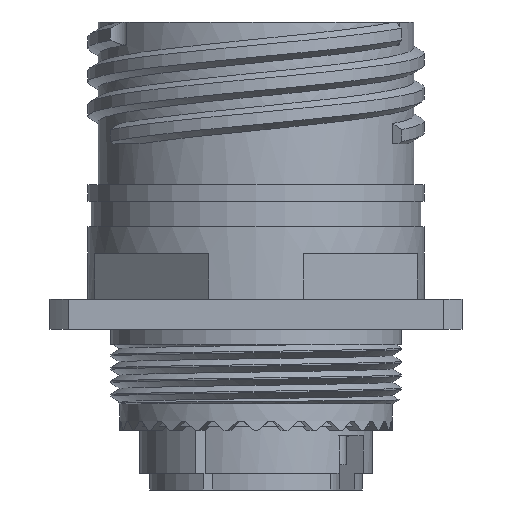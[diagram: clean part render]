
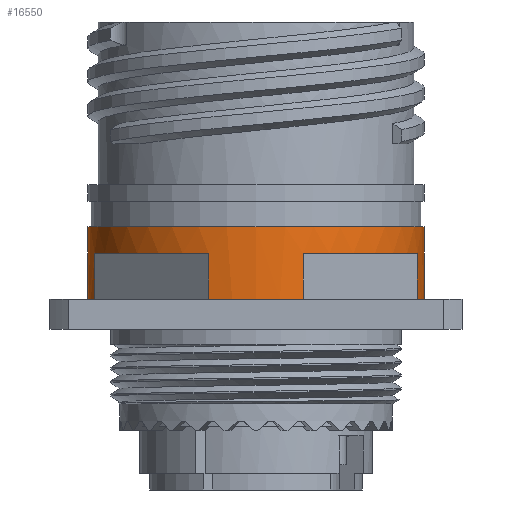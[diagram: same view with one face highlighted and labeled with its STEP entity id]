
A CAD part, front view. The second image highlights one B-rep face of the part: STEP entity #16550.
In plain terms, the highlighted cylindrical face has radius 12.636 mm (diameter 25.273 mm), a partial arc.
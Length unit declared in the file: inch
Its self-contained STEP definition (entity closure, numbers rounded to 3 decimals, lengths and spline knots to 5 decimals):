
#384 = CARTESIAN_POINT ( 'NONE',  ( 0.13987, -0.47743, -0.684 ) ) ;
#502 = DIRECTION ( 'NONE',  ( -1., 0., 0. ) ) ;
#875 = AXIS2_PLACEMENT_3D ( 'NONE', #18387, #9656, #22897 ) ;
#1294 = VERTEX_POINT ( 'NONE', #2163 ) ;
#1550 = LINE ( 'NONE', #8528, #22650 ) ;
#1630 = EDGE_CURVE ( 'NONE', #6919, #15328, #18090, .T. ) ;
#2014 = CARTESIAN_POINT ( 'NONE',  ( 0.47743, -0.13987, -0.684 ) ) ;
#2089 = CARTESIAN_POINT ( 'NONE',  ( 0.13987, -0.47743, 0. ) ) ;
#2105 = CARTESIAN_POINT ( 'NONE',  ( -0.4975, 0., -0.605 ) ) ;
#2163 = CARTESIAN_POINT ( 'NONE',  ( -0.47743, -0.13987, -0.684 ) ) ;
#2383 = VERTEX_POINT ( 'NONE', #23847 ) ;
#2657 = ORIENTED_EDGE ( 'NONE', *, *, #1630, .F. ) ;
#2753 = AXIS2_PLACEMENT_3D ( 'NONE', #18657, #21133, #3375 ) ;
#2845 = CARTESIAN_POINT ( 'NONE',  ( 0., 0., 0. ) ) ;
#2935 = DIRECTION ( 'NONE',  ( -1., 0., 0. ) ) ;
#2980 = CYLINDRICAL_SURFACE ( 'NONE', #3887, 0.4975 ) ;
#3375 = DIRECTION ( 'NONE',  ( -1., 0., 0. ) ) ;
#3743 = DIRECTION ( 'NONE',  ( 0., 0., 1. ) ) ;
#3887 = AXIS2_PLACEMENT_3D ( 'NONE', #2845, #11871, #7351 ) ;
#4202 = CARTESIAN_POINT ( 'NONE',  ( 0., 0., -0.82 ) ) ;
#4292 = DIRECTION ( 'NONE',  ( 0., 0., -1. ) ) ;
#4572 = ORIENTED_EDGE ( 'NONE', *, *, #15920, .F. ) ;
#4865 = CARTESIAN_POINT ( 'NONE',  ( -0.47743, -0.13987, 0. ) ) ;
#4965 = VECTOR ( 'NONE', #23752, 39.37008 ) ;
#4971 = LINE ( 'NONE', #8507, #6556 ) ;
#5150 = EDGE_CURVE ( 'NONE', #1294, #2383, #26988, .T. ) ;
#5248 = EDGE_CURVE ( 'NONE', #9604, #27211, #26169, .T. ) ;
#6556 = VECTOR ( 'NONE', #18222, 39.37008 ) ;
#6764 = EDGE_CURVE ( 'NONE', #23550, #11212, #26959, .T. ) ;
#6919 = VERTEX_POINT ( 'NONE', #17794 ) ;
#6998 = EDGE_CURVE ( 'NONE', #11212, #6919, #25520, .T. ) ;
#7341 = ORIENTED_EDGE ( 'NONE', *, *, #9335, .F. ) ;
#7351 = DIRECTION ( 'NONE',  ( 1., 0., 0. ) ) ;
#8507 = CARTESIAN_POINT ( 'NONE',  ( -0.4975, 0., 0. ) ) ;
#8522 = CIRCLE ( 'NONE', #19205, 0.4975 ) ;
#8528 = CARTESIAN_POINT ( 'NONE',  ( 0.47743, -0.13987, 0. ) ) ;
#8564 = CARTESIAN_POINT ( 'NONE',  ( -0.4975, 0., -0.82 ) ) ;
#8709 = DIRECTION ( 'NONE',  ( -1., 0., 0. ) ) ;
#9335 = EDGE_CURVE ( 'NONE', #2383, #15875, #23643, .T. ) ;
#9604 = VERTEX_POINT ( 'NONE', #16112 ) ;
#9656 = DIRECTION ( 'NONE',  ( 0., 0., -1. ) ) ;
#11090 = AXIS2_PLACEMENT_3D ( 'NONE', #21665, #26166, #2935 ) ;
#11182 = VERTEX_POINT ( 'NONE', #2014 ) ;
#11212 = VERTEX_POINT ( 'NONE', #19481 ) ;
#11347 = VECTOR ( 'NONE', #4292, 39.37008 ) ;
#11871 = DIRECTION ( 'NONE',  ( 0., 0., 1. ) ) ;
#12035 = CIRCLE ( 'NONE', #875, 0.4975 ) ;
#13578 = DIRECTION ( 'NONE',  ( 0., 0., 1. ) ) ;
#13593 = EDGE_CURVE ( 'NONE', #15875, #27211, #4971, .T. ) ;
#14117 = EDGE_CURVE ( 'NONE', #11182, #23550, #20083, .T. ) ;
#14857 = LINE ( 'NONE', #24321, #4965 ) ;
#15039 = ORIENTED_EDGE ( 'NONE', *, *, #25938, .F. ) ;
#15312 = VECTOR ( 'NONE', #13578, 39.37008 ) ;
#15328 = VERTEX_POINT ( 'NONE', #16480 ) ;
#15875 = VERTEX_POINT ( 'NONE', #8564 ) ;
#15920 = EDGE_CURVE ( 'NONE', #21685, #27568, #8522, .T. ) ;
#16112 = CARTESIAN_POINT ( 'NONE',  ( 0.4975, 0., -0.605 ) ) ;
#16480 = CARTESIAN_POINT ( 'NONE',  ( -0.13987, -0.47743, -0.684 ) ) ;
#16550 = ADVANCED_FACE ( 'NONE', ( #27291 ), #2980, .T. ) ;
#17383 = ORIENTED_EDGE ( 'NONE', *, *, #13593, .F. ) ;
#17632 = CARTESIAN_POINT ( 'NONE',  ( 0.47743, -0.13987, -0.82 ) ) ;
#17651 = DIRECTION ( 'NONE',  ( 0., 0., -1. ) ) ;
#17794 = CARTESIAN_POINT ( 'NONE',  ( -0.13987, -0.47743, -0.82 ) ) ;
#18090 = LINE ( 'NONE', #24916, #15312 ) ;
#18218 = AXIS2_PLACEMENT_3D ( 'NONE', #27777, #21230, #21088 ) ;
#18222 = DIRECTION ( 'NONE',  ( 0., 0., 1. ) ) ;
#18387 = CARTESIAN_POINT ( 'NONE',  ( 0., 0., -0.684 ) ) ;
#18657 = CARTESIAN_POINT ( 'NONE',  ( 0., 0., -0.82 ) ) ;
#19037 = EDGE_LOOP ( 'NONE', ( #17383, #7341, #24982, #19418, #2657, #21897, #27326, #21548, #15039, #4572, #23918, #25425 ) ) ;
#19205 = AXIS2_PLACEMENT_3D ( 'NONE', #4202, #22249, #8709 ) ;
#19386 = CARTESIAN_POINT ( 'NONE',  ( 0.4975, 0., -0.82 ) ) ;
#19418 = ORIENTED_EDGE ( 'NONE', *, *, #27325, .F. ) ;
#19481 = CARTESIAN_POINT ( 'NONE',  ( 0.13987, -0.47743, -0.82 ) ) ;
#20083 = CIRCLE ( 'NONE', #18218, 0.4975 ) ;
#21088 = DIRECTION ( 'NONE',  ( -1., 0., 0. ) ) ;
#21133 = DIRECTION ( 'NONE',  ( 0., 0., -1. ) ) ;
#21230 = DIRECTION ( 'NONE',  ( 0., 0., -1. ) ) ;
#21548 = ORIENTED_EDGE ( 'NONE', *, *, #14117, .F. ) ;
#21665 = CARTESIAN_POINT ( 'NONE',  ( 0., 0., -0.82 ) ) ;
#21685 = VERTEX_POINT ( 'NONE', #19386 ) ;
#21688 = VECTOR ( 'NONE', #17651, 39.37008 ) ;
#21897 = ORIENTED_EDGE ( 'NONE', *, *, #6998, .F. ) ;
#22249 = DIRECTION ( 'NONE',  ( 0., 0., -1. ) ) ;
#22650 = VECTOR ( 'NONE', #3743, 39.37008 ) ;
#22897 = DIRECTION ( 'NONE',  ( -1., 0., 0. ) ) ;
#23550 = VERTEX_POINT ( 'NONE', #384 ) ;
#23643 = CIRCLE ( 'NONE', #11090, 0.4975 ) ;
#23752 = DIRECTION ( 'NONE',  ( 0., 0., 1. ) ) ;
#23847 = CARTESIAN_POINT ( 'NONE',  ( -0.47743, -0.13987, -0.82 ) ) ;
#23918 = ORIENTED_EDGE ( 'NONE', *, *, #25551, .T. ) ;
#24321 = CARTESIAN_POINT ( 'NONE',  ( 0.4975, 0., 0. ) ) ;
#24842 = AXIS2_PLACEMENT_3D ( 'NONE', #27561, #27418, #502 ) ;
#24916 = CARTESIAN_POINT ( 'NONE',  ( -0.13987, -0.47743, 0. ) ) ;
#24982 = ORIENTED_EDGE ( 'NONE', *, *, #5150, .F. ) ;
#25425 = ORIENTED_EDGE ( 'NONE', *, *, #5248, .T. ) ;
#25520 = CIRCLE ( 'NONE', #2753, 0.4975 ) ;
#25551 = EDGE_CURVE ( 'NONE', #21685, #9604, #14857, .T. ) ;
#25938 = EDGE_CURVE ( 'NONE', #27568, #11182, #1550, .T. ) ;
#26166 = DIRECTION ( 'NONE',  ( 0., 0., -1. ) ) ;
#26169 = CIRCLE ( 'NONE', #24842, 0.4975 ) ;
#26959 = LINE ( 'NONE', #2089, #21688 ) ;
#26988 = LINE ( 'NONE', #4865, #11347 ) ;
#27211 = VERTEX_POINT ( 'NONE', #2105 ) ;
#27291 = FACE_OUTER_BOUND ( 'NONE', #19037, .T. ) ;
#27325 = EDGE_CURVE ( 'NONE', #15328, #1294, #12035, .T. ) ;
#27326 = ORIENTED_EDGE ( 'NONE', *, *, #6764, .F. ) ;
#27418 = DIRECTION ( 'NONE',  ( 0., 0., -1. ) ) ;
#27561 = CARTESIAN_POINT ( 'NONE',  ( 0., 0., -0.605 ) ) ;
#27568 = VERTEX_POINT ( 'NONE', #17632 ) ;
#27777 = CARTESIAN_POINT ( 'NONE',  ( 0., 0., -0.684 ) ) ;
